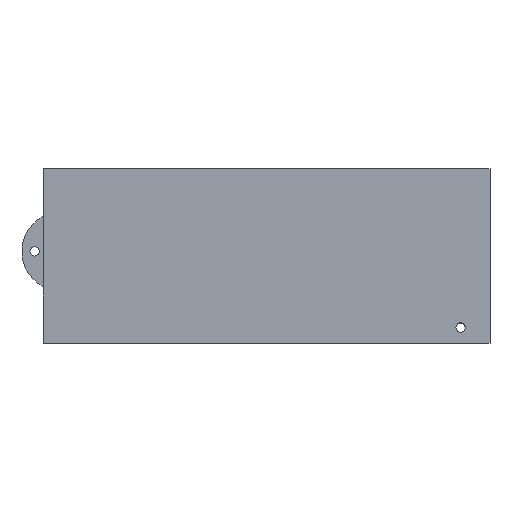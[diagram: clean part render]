
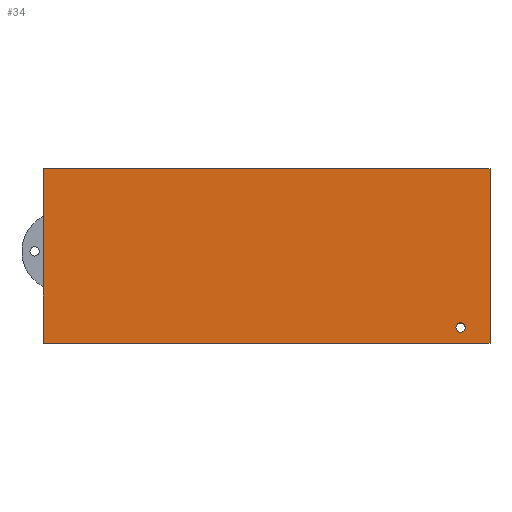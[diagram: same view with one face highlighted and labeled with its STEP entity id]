
A CAD part, top view. The second image highlights one B-rep face of the part: STEP entity #34.
In plain terms, the highlighted planar face has unit normal (0, 0, 1).
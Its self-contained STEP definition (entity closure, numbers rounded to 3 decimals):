
#34 = ADVANCED_FACE( '', ( #71, #72 ), #73, .T. );
#71 = FACE_BOUND( '', #114, .T. );
#72 = FACE_OUTER_BOUND( '', #115, .T. );
#73 = PLANE( '', #116 );
#114 = EDGE_LOOP( '', ( #151 ) );
#115 = EDGE_LOOP( '', ( #152, #153, #154, #155 ) );
#116 = AXIS2_PLACEMENT_3D( '', #156, #157, #158 );
#151 = ORIENTED_EDGE( '', *, *, #235, .F. );
#152 = ORIENTED_EDGE( '', *, *, #236, .T. );
#153 = ORIENTED_EDGE( '', *, *, #237, .T. );
#154 = ORIENTED_EDGE( '', *, *, #238, .T. );
#155 = ORIENTED_EDGE( '', *, *, #239, .T. );
#156 = CARTESIAN_POINT( '', ( 0., 0., 37.5 ) );
#157 = DIRECTION( '', ( 0., 0., 1. ) );
#158 = DIRECTION( '', ( 1., 0., 0. ) );
#235 = EDGE_CURVE( '', #267, #267, #268, .T. );
#236 = EDGE_CURVE( '', #269, #270, #271, .T. );
#237 = EDGE_CURVE( '', #270, #272, #273, .T. );
#238 = EDGE_CURVE( '', #272, #274, #275, .T. );
#239 = EDGE_CURVE( '', #274, #269, #276, .T. );
#267 = VERTEX_POINT( '', #315 );
#268 = CIRCLE( '', #316, 2.718 );
#269 = VERTEX_POINT( '', #317 );
#270 = VERTEX_POINT( '', #318 );
#271 = LINE( '', #319, #320 );
#272 = VERTEX_POINT( '', #321 );
#273 = LINE( '', #322, #323 );
#274 = VERTEX_POINT( '', #324 );
#275 = LINE( '', #325, #326 );
#276 = LINE( '', #327, #328 );
#315 = CARTESIAN_POINT( '', ( 254.548, -45., 37.5 ) );
#316 = AXIS2_PLACEMENT_3D( '', #378, #379, #380 );
#317 = CARTESIAN_POINT( '', ( 269.23, 48.8, 37.5 ) );
#318 = CARTESIAN_POINT( '', ( 5.23, 48.8, 37.5 ) );
#319 = CARTESIAN_POINT( '', ( 269.23, 48.8, 37.5 ) );
#320 = VECTOR( '', #381, 1000. );
#321 = CARTESIAN_POINT( '', ( 5.23, -54.2, 37.5 ) );
#322 = CARTESIAN_POINT( '', ( 5.23, 48.8, 37.5 ) );
#323 = VECTOR( '', #382, 1000. );
#324 = CARTESIAN_POINT( '', ( 269.23, -54.2, 37.5 ) );
#325 = CARTESIAN_POINT( '', ( 5.23, -54.2, 37.5 ) );
#326 = VECTOR( '', #383, 1000. );
#327 = CARTESIAN_POINT( '', ( 269.23, -54.2, 37.5 ) );
#328 = VECTOR( '', #384, 1000. );
#378 = CARTESIAN_POINT( '', ( 251.83, -45., 37.5 ) );
#379 = DIRECTION( '', ( 0., 0., 1. ) );
#380 = DIRECTION( '', ( 1., 0., 0. ) );
#381 = DIRECTION( '', ( -1., 0., 0. ) );
#382 = DIRECTION( '', ( 0., -1., 0. ) );
#383 = DIRECTION( '', ( 1., 0., 0. ) );
#384 = DIRECTION( '', ( 0., 1., 0. ) );
